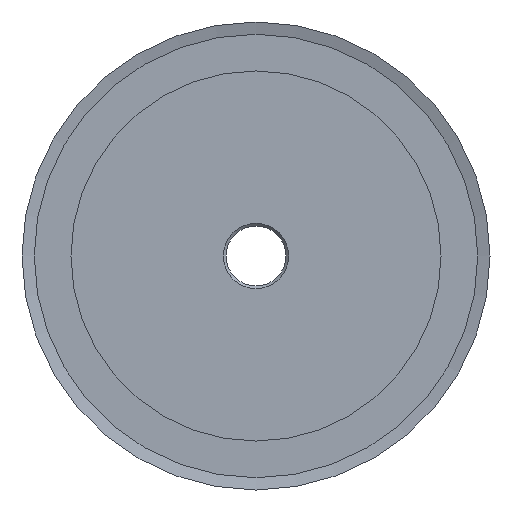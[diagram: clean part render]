
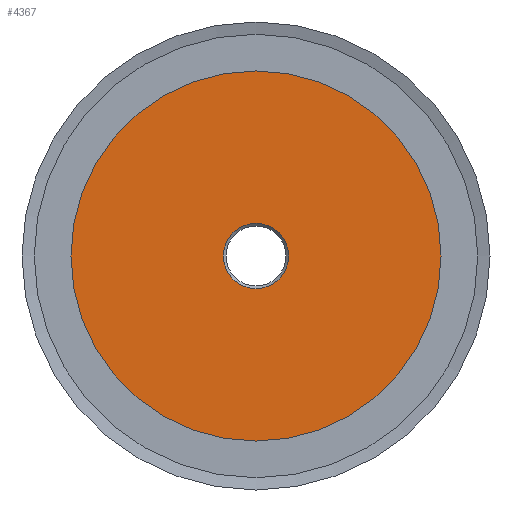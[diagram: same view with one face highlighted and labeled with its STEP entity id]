
A CAD part, left-side view. The second image highlights one B-rep face of the part: STEP entity #4367.
In plain terms, the highlighted planar face has unit normal (-1, 0, 0).
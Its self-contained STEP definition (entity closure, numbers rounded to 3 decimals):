
#38=FACE_BOUND('',#569,.T.);
#123=PLANE('',#4924);
#340=FACE_OUTER_BOUND('',#568,.T.);
#568=EDGE_LOOP('',(#3759));
#569=EDGE_LOOP('',(#3760));
#1603=CIRCLE('',#4923,6.);
#1604=CIRCLE('',#4925,34.);
#2039=VERTEX_POINT('',#7621);
#2040=VERTEX_POINT('',#7625);
#2684=EDGE_CURVE('',#2039,#2039,#1603,.T.);
#2685=EDGE_CURVE('',#2040,#2040,#1604,.T.);
#3759=ORIENTED_EDGE('',*,*,#2685,.F.);
#3760=ORIENTED_EDGE('',*,*,#2684,.T.);
#4367=ADVANCED_FACE('',(#340,#38),#123,.T.);
#4923=AXIS2_PLACEMENT_3D('',#7623,#6278,#6279);
#4924=AXIS2_PLACEMENT_3D('',#7624,#6280,#6281);
#4925=AXIS2_PLACEMENT_3D('',#7626,#6282,#6283);
#6278=DIRECTION('center_axis',(1.,0.,0.));
#6279=DIRECTION('ref_axis',(0.,0.,-1.));
#6280=DIRECTION('center_axis',(-1.,0.,0.));
#6281=DIRECTION('ref_axis',(0.,0.,1.));
#6282=DIRECTION('center_axis',(1.,0.,0.));
#6283=DIRECTION('ref_axis',(0.,0.,-1.));
#7621=CARTESIAN_POINT('',(0.,-6.,0.));
#7623=CARTESIAN_POINT('Origin',(0.,0.,0.));
#7624=CARTESIAN_POINT('Origin',(0.,34.,0.));
#7625=CARTESIAN_POINT('',(0.,-34.,0.));
#7626=CARTESIAN_POINT('Origin',(0.,0.,0.));
